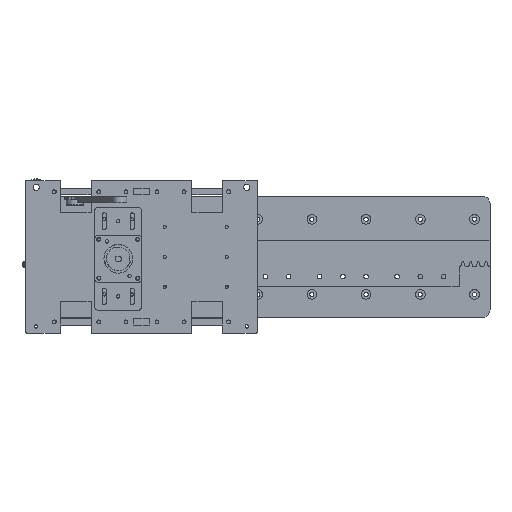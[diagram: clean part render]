
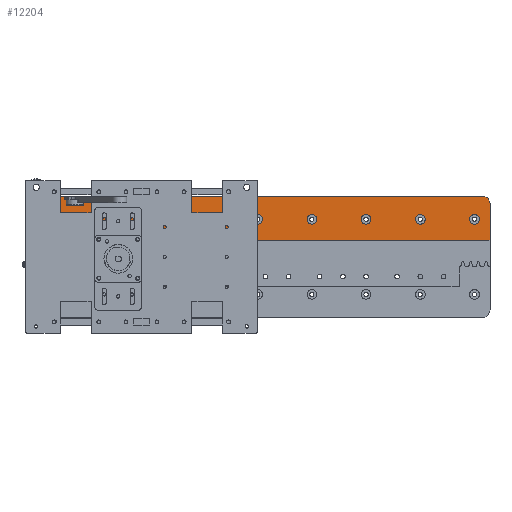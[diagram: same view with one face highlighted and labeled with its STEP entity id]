
A CAD part, top view. The second image highlights one B-rep face of the part: STEP entity #12204.
In plain terms, the highlighted planar face has unit normal (0, 0, 1).
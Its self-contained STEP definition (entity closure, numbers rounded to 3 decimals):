
#346=FACE_BOUND('',#2019,.T.);
#347=FACE_BOUND('',#2020,.T.);
#348=FACE_BOUND('',#2021,.T.);
#349=FACE_BOUND('',#2022,.T.);
#350=FACE_BOUND('',#2023,.T.);
#351=FACE_BOUND('',#2024,.T.);
#352=FACE_BOUND('',#2025,.T.);
#353=FACE_BOUND('',#2026,.T.);
#354=FACE_BOUND('',#2027,.T.);
#1046=PLANE('',#13194);
#1313=FACE_OUTER_BOUND('',#2018,.T.);
#2018=EDGE_LOOP('',(#8531,#8532,#8533,#8534,#8535,#8536));
#2019=EDGE_LOOP('',(#8537));
#2020=EDGE_LOOP('',(#8538));
#2021=EDGE_LOOP('',(#8539));
#2022=EDGE_LOOP('',(#8540));
#2023=EDGE_LOOP('',(#8541));
#2024=EDGE_LOOP('',(#8542));
#2025=EDGE_LOOP('',(#8543));
#2026=EDGE_LOOP('',(#8544));
#2027=EDGE_LOOP('',(#8545));
#2913=LINE('',#18387,#3700);
#2924=LINE('',#18471,#3711);
#2929=LINE('',#18481,#3716);
#2931=LINE('',#18490,#3718);
#3700=VECTOR('',#14414,10.);
#3711=VECTOR('',#14441,10.);
#3716=VECTOR('',#14452,10.);
#3718=VECTOR('',#14462,10.);
#4519=CIRCLE('',#13071,10.);
#4521=CIRCLE('',#13075,10.);
#4523=CIRCLE('',#13078,6.25);
#4530=CIRCLE('',#13091,6.25);
#4537=CIRCLE('',#13104,6.25);
#4544=CIRCLE('',#13117,6.25);
#4551=CIRCLE('',#13130,6.25);
#4558=CIRCLE('',#13143,6.25);
#4565=CIRCLE('',#13156,6.25);
#4572=CIRCLE('',#13169,6.25);
#4579=CIRCLE('',#13182,6.25);
#5218=VERTEX_POINT('',#18384);
#5219=VERTEX_POINT('',#18386);
#5228=VERTEX_POINT('',#18468);
#5229=VERTEX_POINT('',#18470);
#5232=VERTEX_POINT('',#18483);
#5234=VERTEX_POINT('',#18489);
#5236=VERTEX_POINT('',#18498);
#5243=VERTEX_POINT('',#18522);
#5250=VERTEX_POINT('',#18546);
#5257=VERTEX_POINT('',#18570);
#5264=VERTEX_POINT('',#18594);
#5271=VERTEX_POINT('',#18618);
#5278=VERTEX_POINT('',#18642);
#5285=VERTEX_POINT('',#18666);
#5292=VERTEX_POINT('',#18690);
#6454=EDGE_CURVE('',#5219,#5218,#2913,.T.);
#6470=EDGE_CURVE('',#5229,#5228,#2924,.T.);
#6476=EDGE_CURVE('',#5228,#5219,#2929,.T.);
#6477=EDGE_CURVE('',#5218,#5232,#4519,.T.);
#6480=EDGE_CURVE('',#5232,#5234,#2931,.T.);
#6483=EDGE_CURVE('',#5234,#5229,#4521,.T.);
#6485=EDGE_CURVE('',#5236,#5236,#4523,.T.);
#6496=EDGE_CURVE('',#5243,#5243,#4530,.T.);
#6507=EDGE_CURVE('',#5250,#5250,#4537,.T.);
#6518=EDGE_CURVE('',#5257,#5257,#4544,.T.);
#6529=EDGE_CURVE('',#5264,#5264,#4551,.T.);
#6540=EDGE_CURVE('',#5271,#5271,#4558,.T.);
#6551=EDGE_CURVE('',#5278,#5278,#4565,.T.);
#6562=EDGE_CURVE('',#5285,#5285,#4572,.T.);
#6573=EDGE_CURVE('',#5292,#5292,#4579,.T.);
#8531=ORIENTED_EDGE('',*,*,#6454,.T.);
#8532=ORIENTED_EDGE('',*,*,#6477,.T.);
#8533=ORIENTED_EDGE('',*,*,#6480,.T.);
#8534=ORIENTED_EDGE('',*,*,#6483,.T.);
#8535=ORIENTED_EDGE('',*,*,#6470,.T.);
#8536=ORIENTED_EDGE('',*,*,#6476,.T.);
#8537=ORIENTED_EDGE('',*,*,#6485,.T.);
#8538=ORIENTED_EDGE('',*,*,#6496,.T.);
#8539=ORIENTED_EDGE('',*,*,#6507,.T.);
#8540=ORIENTED_EDGE('',*,*,#6518,.T.);
#8541=ORIENTED_EDGE('',*,*,#6529,.T.);
#8542=ORIENTED_EDGE('',*,*,#6540,.T.);
#8543=ORIENTED_EDGE('',*,*,#6551,.T.);
#8544=ORIENTED_EDGE('',*,*,#6562,.T.);
#8545=ORIENTED_EDGE('',*,*,#6573,.T.);
#12204=ADVANCED_FACE('',(#1313,#346,#347,#348,#349,#350,#351,#352,#353,
#354),#1046,.T.);
#13071=AXIS2_PLACEMENT_3D('',#18484,#14455,#14456);
#13075=AXIS2_PLACEMENT_3D('',#18495,#14467,#14468);
#13078=AXIS2_PLACEMENT_3D('',#18499,#14473,#14474);
#13091=AXIS2_PLACEMENT_3D('',#18523,#14503,#14504);
#13104=AXIS2_PLACEMENT_3D('',#18547,#14533,#14534);
#13117=AXIS2_PLACEMENT_3D('',#18571,#14563,#14564);
#13130=AXIS2_PLACEMENT_3D('',#18595,#14593,#14594);
#13143=AXIS2_PLACEMENT_3D('',#18619,#14623,#14624);
#13156=AXIS2_PLACEMENT_3D('',#18643,#14653,#14654);
#13169=AXIS2_PLACEMENT_3D('',#18667,#14683,#14684);
#13182=AXIS2_PLACEMENT_3D('',#18691,#14713,#14714);
#13194=AXIS2_PLACEMENT_3D('',#18713,#14741,#14742);
#14414=DIRECTION('',(0.,1.,0.));
#14441=DIRECTION('',(0.,-1.,0.));
#14452=DIRECTION('',(1.,0.,0.));
#14455=DIRECTION('center_axis',(0.,0.,1.));
#14456=DIRECTION('ref_axis',(0.707,0.707,0.));
#14462=DIRECTION('',(-1.,0.,0.));
#14467=DIRECTION('center_axis',(0.,0.,1.));
#14468=DIRECTION('ref_axis',(-0.707,0.707,0.));
#14473=DIRECTION('center_axis',(0.,0.,-1.));
#14474=DIRECTION('ref_axis',(1.,0.,0.));
#14503=DIRECTION('center_axis',(0.,0.,-1.));
#14504=DIRECTION('ref_axis',(1.,0.,0.));
#14533=DIRECTION('center_axis',(0.,0.,-1.));
#14534=DIRECTION('ref_axis',(1.,0.,0.));
#14563=DIRECTION('center_axis',(0.,0.,-1.));
#14564=DIRECTION('ref_axis',(1.,0.,0.));
#14593=DIRECTION('center_axis',(0.,0.,-1.));
#14594=DIRECTION('ref_axis',(1.,0.,0.));
#14623=DIRECTION('center_axis',(0.,0.,-1.));
#14624=DIRECTION('ref_axis',(1.,0.,0.));
#14653=DIRECTION('center_axis',(0.,0.,-1.));
#14654=DIRECTION('ref_axis',(1.,0.,0.));
#14683=DIRECTION('center_axis',(0.,0.,-1.));
#14684=DIRECTION('ref_axis',(1.,0.,0.));
#14713=DIRECTION('center_axis',(0.,0.,-1.));
#14714=DIRECTION('ref_axis',(1.,0.,0.));
#14741=DIRECTION('center_axis',(0.,0.,1.));
#14742=DIRECTION('ref_axis',(0.,-1.,0.));
#18384=CARTESIAN_POINT('',(600.,78.049,0.));
#18386=CARTESIAN_POINT('',(600.,31.249,0.));
#18387=CARTESIAN_POINT('',(600.,48.799,0.));
#18468=CARTESIAN_POINT('',(0.,31.249,0.));
#18470=CARTESIAN_POINT('',(0.,78.049,0.));
#18471=CARTESIAN_POINT('',(0.,48.799,0.));
#18481=CARTESIAN_POINT('',(0.,31.249,0.));
#18483=CARTESIAN_POINT('',(590.,88.049,0.));
#18484=CARTESIAN_POINT('Origin',(590.,78.049,0.));
#18489=CARTESIAN_POINT('',(10.,88.049,0.));
#18490=CARTESIAN_POINT('',(0.,88.049,0.));
#18495=CARTESIAN_POINT('Origin',(10.,78.049,0.));
#18498=CARTESIAN_POINT('',(573.75,58.049,0.));
#18499=CARTESIAN_POINT('Origin',(580.,58.049,0.));
#18522=CARTESIAN_POINT('',(503.75,58.049,0.));
#18523=CARTESIAN_POINT('Origin',(510.,58.049,0.));
#18546=CARTESIAN_POINT('',(433.75,58.049,0.));
#18547=CARTESIAN_POINT('Origin',(440.,58.049,0.));
#18570=CARTESIAN_POINT('',(363.75,58.049,0.));
#18571=CARTESIAN_POINT('Origin',(370.,58.049,0.));
#18594=CARTESIAN_POINT('',(293.75,58.049,0.));
#18595=CARTESIAN_POINT('Origin',(300.,58.049,0.));
#18618=CARTESIAN_POINT('',(223.75,58.049,0.));
#18619=CARTESIAN_POINT('Origin',(230.,58.049,0.));
#18642=CARTESIAN_POINT('',(153.75,58.049,0.));
#18643=CARTESIAN_POINT('Origin',(160.,58.049,0.));
#18666=CARTESIAN_POINT('',(83.75,58.049,0.));
#18667=CARTESIAN_POINT('Origin',(90.,58.049,0.));
#18690=CARTESIAN_POINT('',(13.75,58.049,0.));
#18691=CARTESIAN_POINT('Origin',(20.,58.049,0.));
#18713=CARTESIAN_POINT('Origin',(0.,88.049,0.));
